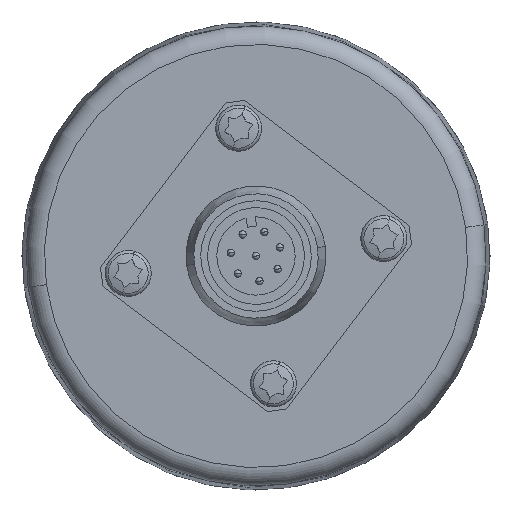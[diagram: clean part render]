
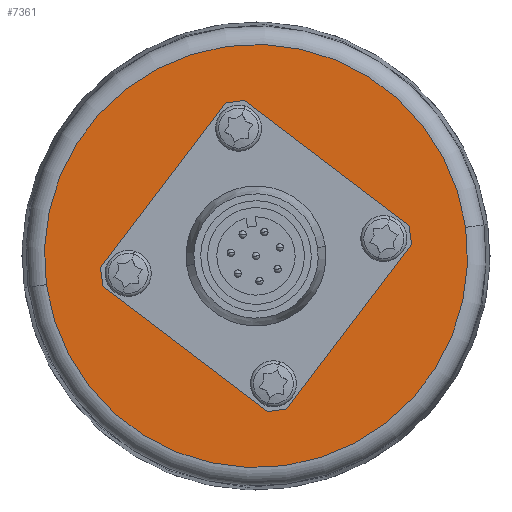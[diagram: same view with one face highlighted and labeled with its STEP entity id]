
A CAD part, left-side view. The second image highlights one B-rep face of the part: STEP entity #7361.
In plain terms, the highlighted planar face has unit normal (-1, 0, 0).
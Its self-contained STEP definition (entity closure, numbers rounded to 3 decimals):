
#2607 = DIRECTION ( 'NONE',  ( 0., 0.991, -0.135 ) ) ;
#2608 = DIRECTION ( 'NONE',  ( 1., 0., 0. ) ) ;
#2609 = CARTESIAN_POINT ( 'NONE',  ( -21., 1.894, 13.872 ) ) ;
#2610 = AXIS2_PLACEMENT_3D ( 'NONE', #2609, #2608, #2607 ) ;
#2611 = CIRCLE ( 'NONE', #2610, 1.389 ) ;
#2654 = CARTESIAN_POINT ( 'NONE',  ( -21., 0.518, 14.06 ) ) ;
#3332 = CARTESIAN_POINT ( 'NONE',  ( -21., -12.496, 1.706 ) ) ;
#3588 = CARTESIAN_POINT ( 'NONE',  ( -21., 3.269, 13.684 ) ) ;
#3763 = CARTESIAN_POINT ( 'NONE',  ( -21., -0.518, -14.06 ) ) ;
#4106 = DIRECTION ( 'NONE',  ( 0., 0.991, -0.135 ) ) ;
#4107 = DIRECTION ( 'NONE',  ( 1., 0., 0. ) ) ;
#4108 = CARTESIAN_POINT ( 'NONE',  ( -21., -13.872, 1.894 ) ) ;
#4109 = AXIS2_PLACEMENT_3D ( 'NONE', #4108, #4107, #4106 ) ;
#4110 = CIRCLE ( 'NONE', #4109, 1.389 ) ;
#4111 = CARTESIAN_POINT ( 'NONE',  ( -21., -15.248, 2.081 ) ) ;
#5024 = EDGE_CURVE ( 'NONE', #5025, #5028, #10584, .T. ) ;
#5025 = VERTEX_POINT ( 'NONE', #10580 ) ;
#5028 = VERTEX_POINT ( 'NONE', #10571 ) ;
#5044 = VERTEX_POINT ( 'NONE', #10644 ) ;
#5048 = EDGE_CURVE ( 'NONE', #5044, #5103, #10643, .T. ) ;
#5060 = EDGE_CURVE ( 'NONE', #5108, #23110, #10674, .T. ) ;
#5103 = VERTEX_POINT ( 'NONE', #10868 ) ;
#5108 = VERTEX_POINT ( 'NONE', #10902 ) ;
#6264 = VERTEX_POINT ( 'NONE', #14665 ) ;
#6266 = VERTEX_POINT ( 'NONE', #14659 ) ;
#6303 = EDGE_CURVE ( 'NONE', #6264, #6266, #14777, .T. ) ;
#7361 = ADVANCED_FACE ( 'NONE', ( #18597, #18596, #18595, #18594, #18593, #18592 ), #18630, .F. ) ;
#7362 = EDGE_LOOP ( 'NONE', ( #7365, #7472 ) ) ;
#7365 = ORIENTED_EDGE ( 'NONE', *, *, #5048, .T. ) ;
#7395 = ORIENTED_EDGE ( 'NONE', *, *, #7396, .T. ) ;
#7396 = EDGE_CURVE ( 'NONE', #23110, #5108, #18709, .T. ) ;
#7398 = EDGE_LOOP ( 'NONE', ( #7401, #7403 ) ) ;
#7401 = ORIENTED_EDGE ( 'NONE', *, *, #16112, .T. ) ;
#7403 = ORIENTED_EDGE ( 'NONE', *, *, #7405, .T. ) ;
#7405 = EDGE_CURVE ( 'NONE', #23041, #17003, #18751, .T. ) ;
#7407 = EDGE_LOOP ( 'NONE', ( #7409, #7525 ) ) ;
#7409 = ORIENTED_EDGE ( 'NONE', *, *, #23210, .T. ) ;
#7472 = ORIENTED_EDGE ( 'NONE', *, *, #7474, .T. ) ;
#7474 = EDGE_CURVE ( 'NONE', #5103, #5044, #18966, .T. ) ;
#7475 = EDGE_LOOP ( 'NONE', ( #7477, #7395 ) ) ;
#7477 = ORIENTED_EDGE ( 'NONE', *, *, #5060, .T. ) ;
#7525 = ORIENTED_EDGE ( 'NONE', *, *, #7527, .T. ) ;
#7527 = EDGE_CURVE ( 'NONE', #22963, #23208, #19171, .T. ) ;
#7529 = EDGE_LOOP ( 'NONE', ( #7531, #7536 ) ) ;
#7531 = ORIENTED_EDGE ( 'NONE', *, *, #7533, .T. ) ;
#7533 = EDGE_CURVE ( 'NONE', #5028, #5025, #19212, .T. ) ;
#7536 = ORIENTED_EDGE ( 'NONE', *, *, #5024, .T. ) ;
#7537 = EDGE_LOOP ( 'NONE', ( #7540, #7543 ) ) ;
#7540 = ORIENTED_EDGE ( 'NONE', *, *, #7541, .F. ) ;
#7541 = EDGE_CURVE ( 'NONE', #6266, #6264, #19253, .T. ) ;
#7543 = ORIENTED_EDGE ( 'NONE', *, *, #6303, .F. ) ;
#10571 = CARTESIAN_POINT ( 'NONE',  ( -21., 22.761, -3.107 ) ) ;
#10580 = CARTESIAN_POINT ( 'NONE',  ( -21., -22.761, 3.107 ) ) ;
#10581 = DIRECTION ( 'NONE',  ( 0., 0.991, -0.135 ) ) ;
#10582 = DIRECTION ( 'NONE',  ( -1., 0., 0. ) ) ;
#10583 = AXIS2_PLACEMENT_3D ( 'NONE', #10589, #10582, #10581 ) ;
#10584 = CIRCLE ( 'NONE', #10583, 22.972 ) ;
#10589 = CARTESIAN_POINT ( 'NONE',  ( -21., 0., 0. ) ) ;
#10639 = DIRECTION ( 'NONE',  ( 0., 0.991, -0.135 ) ) ;
#10640 = DIRECTION ( 'NONE',  ( 1., 0., 0. ) ) ;
#10641 = CARTESIAN_POINT ( 'NONE',  ( -21., 13.872, -1.894 ) ) ;
#10642 = AXIS2_PLACEMENT_3D ( 'NONE', #10641, #10640, #10639 ) ;
#10643 = CIRCLE ( 'NONE', #10642, 1.389 ) ;
#10644 = CARTESIAN_POINT ( 'NONE',  ( -21., 12.496, -1.706 ) ) ;
#10665 = DIRECTION ( 'NONE',  ( 0., 0.991, -0.135 ) ) ;
#10666 = DIRECTION ( 'NONE',  ( 1., 0., 0. ) ) ;
#10667 = CARTESIAN_POINT ( 'NONE',  ( -21., -1.894, -13.872 ) ) ;
#10668 = AXIS2_PLACEMENT_3D ( 'NONE', #10667, #10666, #10665 ) ;
#10674 = CIRCLE ( 'NONE', #10668, 1.389 ) ;
#10868 = CARTESIAN_POINT ( 'NONE',  ( -21., 15.248, -2.081 ) ) ;
#10902 = CARTESIAN_POINT ( 'NONE',  ( -21., -3.269, -13.684 ) ) ;
#14659 = CARTESIAN_POINT ( 'NONE',  ( -21., -11.394, 1.555 ) ) ;
#14665 = CARTESIAN_POINT ( 'NONE',  ( -21., 11.394, -1.555 ) ) ;
#14777 = CIRCLE ( 'NONE', #14782, 11.5 ) ;
#14782 = AXIS2_PLACEMENT_3D ( 'NONE', #14837, #14836, #14835 ) ;
#14835 = DIRECTION ( 'NONE',  ( 0., -0.991, 0.135 ) ) ;
#14836 = DIRECTION ( 'NONE',  ( -1., 0., 0. ) ) ;
#14837 = CARTESIAN_POINT ( 'NONE',  ( -21., 0., 0. ) ) ;
#16112 = EDGE_CURVE ( 'NONE', #17003, #23041, #2611, .T. ) ;
#17003 = VERTEX_POINT ( 'NONE', #2654 ) ;
#18592 = FACE_BOUND ( 'NONE', #7537, .T. ) ;
#18593 = FACE_OUTER_BOUND ( 'NONE', #7529, .T. ) ;
#18594 = FACE_BOUND ( 'NONE', #7407, .T. ) ;
#18595 = FACE_BOUND ( 'NONE', #7398, .T. ) ;
#18596 = FACE_BOUND ( 'NONE', #7475, .T. ) ;
#18597 = FACE_BOUND ( 'NONE', #7362, .T. ) ;
#18625 = DIRECTION ( 'NONE',  ( 0., 0.991, -0.135 ) ) ;
#18626 = DIRECTION ( 'NONE',  ( 1., 0., 0. ) ) ;
#18627 = CARTESIAN_POINT ( 'NONE',  ( -21., 0., 0. ) ) ;
#18628 = AXIS2_PLACEMENT_3D ( 'NONE', #18627, #18626, #18625 ) ;
#18630 = PLANE ( 'NONE',  #18628 ) ;
#18705 = DIRECTION ( 'NONE',  ( 0., 0.991, -0.135 ) ) ;
#18706 = DIRECTION ( 'NONE',  ( 1., 0., 0. ) ) ;
#18707 = CARTESIAN_POINT ( 'NONE',  ( -21., -1.894, -13.872 ) ) ;
#18708 = AXIS2_PLACEMENT_3D ( 'NONE', #18707, #18706, #18705 ) ;
#18709 = CIRCLE ( 'NONE', #18708, 1.389 ) ;
#18747 = DIRECTION ( 'NONE',  ( 0., 0.991, -0.135 ) ) ;
#18748 = DIRECTION ( 'NONE',  ( 1., 0., 0. ) ) ;
#18749 = CARTESIAN_POINT ( 'NONE',  ( -21., 1.894, 13.872 ) ) ;
#18750 = AXIS2_PLACEMENT_3D ( 'NONE', #18749, #18748, #18747 ) ;
#18751 = CIRCLE ( 'NONE', #18750, 1.389 ) ;
#18935 = CARTESIAN_POINT ( 'NONE',  ( -21., 13.872, -1.894 ) ) ;
#18964 = DIRECTION ( 'NONE',  ( 1., 0., 0. ) ) ;
#18965 = AXIS2_PLACEMENT_3D ( 'NONE', #18935, #18964, #18987 ) ;
#18966 = CIRCLE ( 'NONE', #18965, 1.389 ) ;
#18987 = DIRECTION ( 'NONE',  ( 0., 0.991, -0.135 ) ) ;
#19167 = DIRECTION ( 'NONE',  ( 0., 0.991, -0.135 ) ) ;
#19168 = DIRECTION ( 'NONE',  ( 1., 0., 0. ) ) ;
#19169 = CARTESIAN_POINT ( 'NONE',  ( -21., -13.872, 1.894 ) ) ;
#19170 = AXIS2_PLACEMENT_3D ( 'NONE', #19169, #19168, #19167 ) ;
#19171 = CIRCLE ( 'NONE', #19170, 1.389 ) ;
#19209 = DIRECTION ( 'NONE',  ( 0., 0.991, -0.135 ) ) ;
#19210 = DIRECTION ( 'NONE',  ( -1., 0., 0. ) ) ;
#19211 = AXIS2_PLACEMENT_3D ( 'NONE', #19214, #19210, #19209 ) ;
#19212 = CIRCLE ( 'NONE', #19211, 22.972 ) ;
#19214 = CARTESIAN_POINT ( 'NONE',  ( -21., 0., 0. ) ) ;
#19250 = DIRECTION ( 'NONE',  ( 0., -0.991, 0.135 ) ) ;
#19251 = DIRECTION ( 'NONE',  ( -1., 0., 0. ) ) ;
#19252 = AXIS2_PLACEMENT_3D ( 'NONE', #19260, #19251, #19250 ) ;
#19253 = CIRCLE ( 'NONE', #19252, 11.5 ) ;
#19260 = CARTESIAN_POINT ( 'NONE',  ( -21., 0., 0. ) ) ;
#22963 = VERTEX_POINT ( 'NONE', #3332 ) ;
#23041 = VERTEX_POINT ( 'NONE', #3588 ) ;
#23110 = VERTEX_POINT ( 'NONE', #3763 ) ;
#23208 = VERTEX_POINT ( 'NONE', #4111 ) ;
#23210 = EDGE_CURVE ( 'NONE', #23208, #22963, #4110, .T. ) ;
